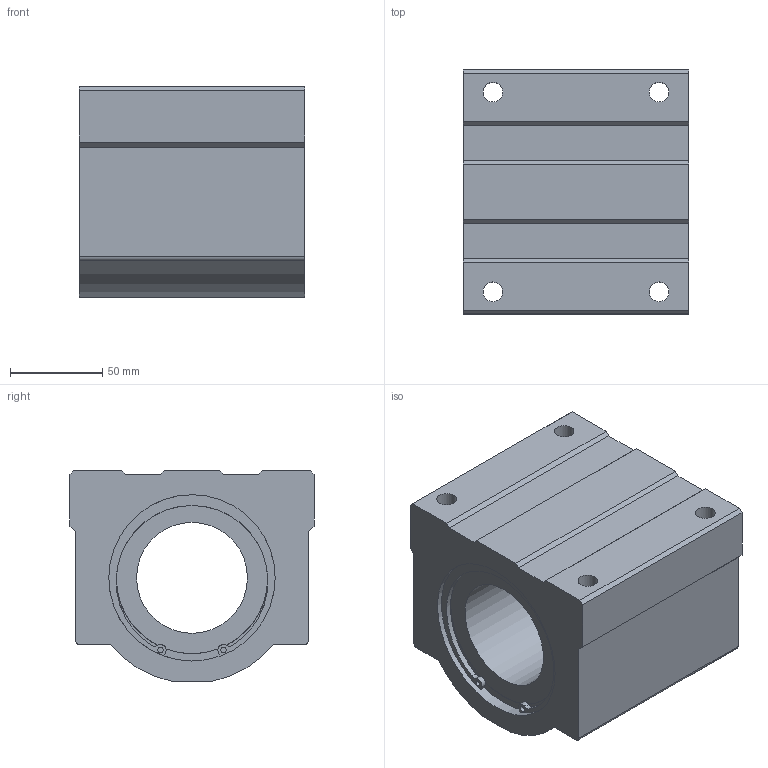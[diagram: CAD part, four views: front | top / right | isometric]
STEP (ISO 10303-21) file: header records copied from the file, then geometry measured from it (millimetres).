
FILE_DESCRIPTION((''),'2;1');
FILE_NAME('D:\製品 (図面)\カタログ用3D\リニアベアリング関連(改)\STEP形式\LH-B\LH60B.stp','2010-01-25T10:22:58',('Tsuchiya'),(''),'Autodesk Inventor 10','Autodesk Inventor 10','');
FILE_SCHEMA(('AUTOMOTIVE_DESIGN { 1 0 10303 214 1 1 1 1 }'));
Length unit declared in the file: millimetre
Products named in the file (1): LH60B
Bounding box: 122 x 132 x 114 mm (x, y, z)
Volume: 1194978.4 mm3; surface area: 119009.8 mm2
Topology: 1 solids, 3 shells, 81 faces, 199 edges, 130 vertices
Faces by surface type: plane 44, cylinder 20, bspline 17
Full cylindrical faces by diameter (mm): 3 x2, 60 x1, 82 x2, 86.5 x2, 90 x4
Entity records: 2448 total; most frequent: CARTESIAN_POINT 583, DIRECTION 390, ORIENTED_EDGE 348, EDGE_CURVE 174, AXIS2_PLACEMENT_3D 151, VERTEX_POINT 122, EDGE_LOOP 118, VECTOR 88
